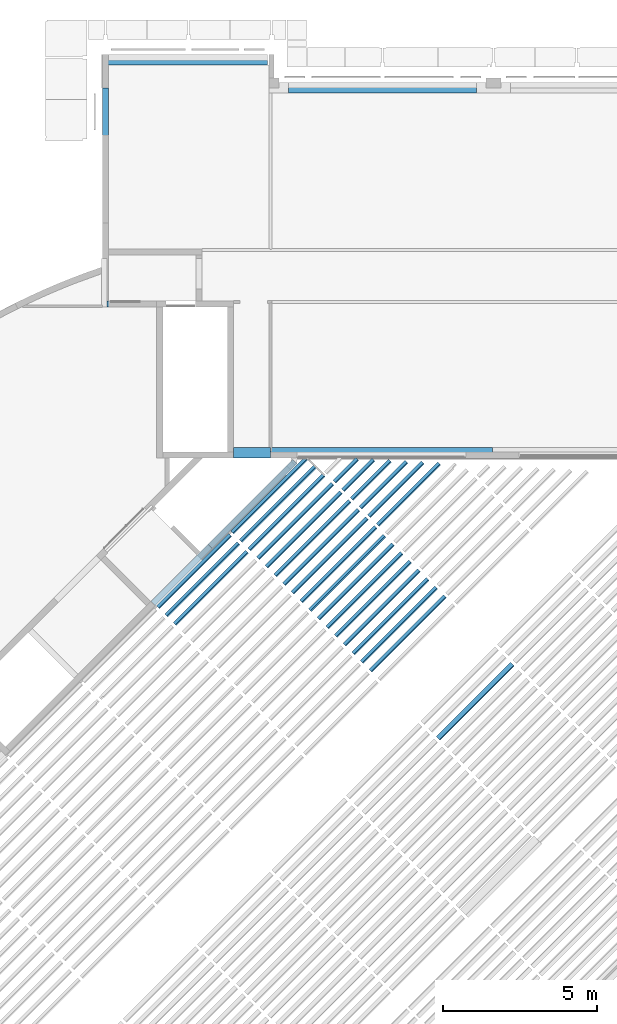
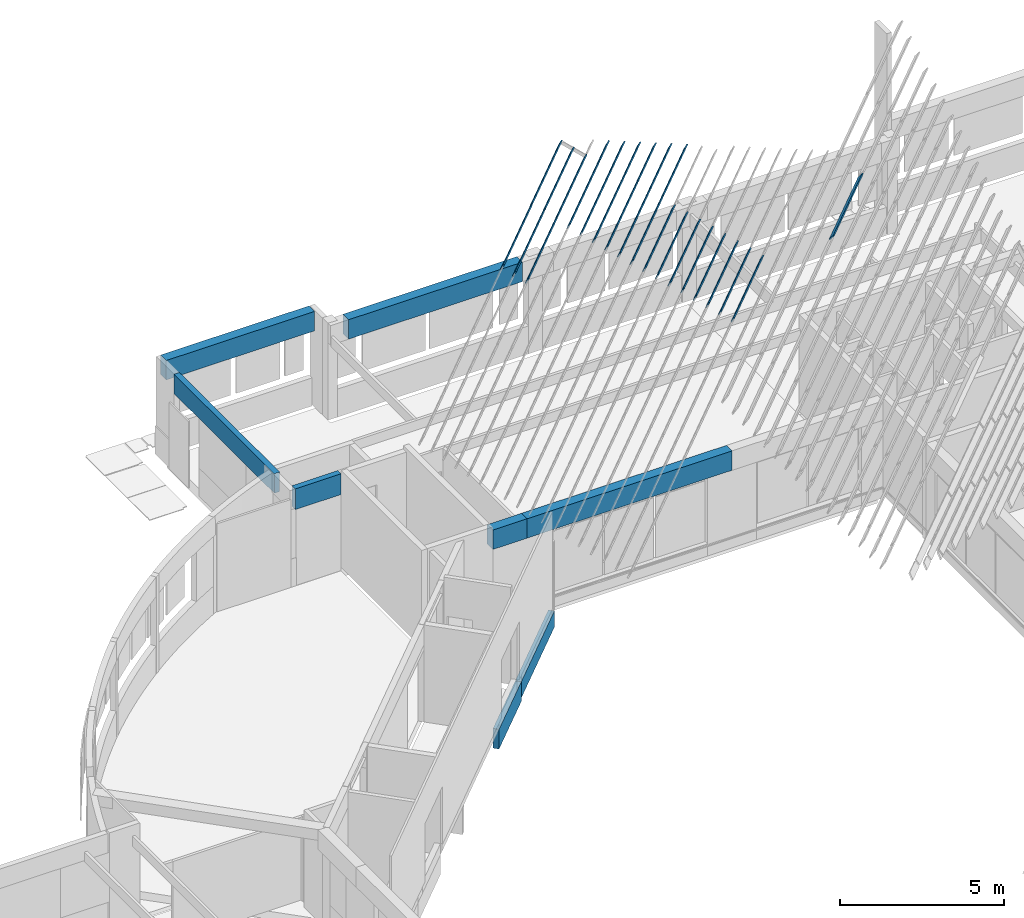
# One storey, part 12 of 37: 35 beams.
"""IFC4X3_ADD2 building model written with IfcOpenShell, lengths in millimetres."""

from ifc_helpers import new_model, si_unit, direction, frame, frame_2d, origin_with_axes, origin_2d_with_axis, place, context, subcontext, project, spatial, rectangle, extrude, source, transform, mapped, material, type_object, type_shapes, element, save


model = new_model("IFC4X3_ADD2")

# Units and contexts
model_context = context("Model", 3, precision=1e-05, world=origin_with_axes(), true_north=direction((0.0, 1.0)))
body_context = subcontext(model_context, "Body", "Model", "MODEL_VIEW")
ifc_project = project(units=[si_unit("LENGTHUNIT", "METRE", prefix="MILLI"), si_unit("AREAUNIT", "SQUARE_METRE"), si_unit("VOLUMEUNIT", "CUBIC_METRE"), si_unit("PLANEANGLEUNIT", "RADIAN"), si_unit("TIMEUNIT", "SECOND"), si_unit("MASSUNIT", "GRAM")], contexts=[model_context])

# Site, building, storey
site_placement = place(None, origin_with_axes())
site = spatial("IfcSite", under=ifc_project, at=site_placement, Name="Site", CompositionType="ELEMENT")
building_placement = place(site_placement, origin_with_axes())
building = spatial("IfcBuilding", under=site, at=building_placement, Name="IFC Building Story")
storey_placement = place(building_placement, frame((0.0, 0.0, 3600.0), z_axis=(0.0, 0.0, 1.0), x_axis=(1.0, 0.0, 0.0)))
storey = spatial("IfcBuildingStorey", under=building, at=storey_placement, Name="010", Elevation=3600.0)

# Beams
ifc_material_1 = material(Name="BB_Beton_Bestaand")
beam_type_1 = type_object("IfcBeamType", Name="BB_XX_Betonbalk_ rechthoekig_ center-center_SFB_340 x 720 mm1", PredefinedType="NOTDEFINED")
shared_shape_1 = source(origin_with_axes(), body_context, "Body", "SweptSolid", [
    extrude(rectangle(XDim=5209.99999999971, YDim=340.0, at=origin_2d_with_axis()), frame((-1.450644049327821e-10, 0.0, -360.0), z_axis=(0.0, 0.0, 1.0), x_axis=(1.0, 0.0, 0.0)), (0.0, 0.0, 1.0), 720.0),
])
type_shapes(beam_type_1, [shared_shape_1])
beam_1_placement = place(storey_placement, frame((-27900.0, 51525.0, 3040.0), z_axis=(0.0, 0.0, 1.0), x_axis=(1.0, 0.0, 0.0)))
element("IfcBeam", 1, at=beam_1_placement, inside=storey, type_object=beam_type_1, material=ifc_material_1, Name="BB_XX_Betonbalk, rechthoekig, center-center_SFB:340 x 720 mm", ObjectType="340 x 720 mm", PredefinedType="BEAM", context=body_context, shape_type="MappedRepresentation", body=[
    mapped(shared_shape_1, transform((0.0, 0.0, 0.0))),
])
beam_type_2 = type_object("IfcBeamType", Name="BB_XX_Betonbalk_ rechthoekig_ center-center_SFB_340 x 720 mm35", PredefinedType="NOTDEFINED")
shared_shape_2 = source(origin_with_axes(), body_context, "Body", "SweptSolid", [
    extrude(rectangle(XDim=7200.0, YDim=340.0, at=origin_2d_with_axis()), frame((-5.002220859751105e-12, 0.0, -360.0), z_axis=(0.0, 0.0, 1.0), x_axis=(1.0, 0.0, 0.0)), (0.0, 0.0, 1.0), 720.0),
])
type_shapes(beam_type_2, [shared_shape_2])
beam_2_placement = place(storey_placement, frame((-21600.0, 38774.9959341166, 3040.0), z_axis=(0.0, 0.0, 1.0), x_axis=(-1.0, 0.0, 0.0)))
element("IfcBeam", 2, at=beam_2_placement, inside=storey, type_object=beam_type_2, material=ifc_material_1, Name="BB_XX_Betonbalk, rechthoekig, center-center_SFB:340 x 720 mm", ObjectType="340 x 720 mm", PredefinedType="BEAM", context=body_context, shape_type="MappedRepresentation", body=[
    mapped(shared_shape_2, transform((0.0, 0.0, 0.0))),
])
beam_type_3 = type_object("IfcBeamType", Name="BB_XX_Betonbalk_ rechthoekig_ center-center_SFB_340 x 720 mm127", PredefinedType="NOTDEFINED")
shared_shape_3 = source(origin_with_axes(), body_context, "Body", "SweptSolid", [
    extrude(rectangle(XDim=6109.99999999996, YDim=339.9999999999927, at=origin_2d_with_axis()), frame((-21565.00000000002, 50624.99999999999, 6280.0), z_axis=(0.0, 0.0, 1.0), x_axis=(1.0, 0.0, 0.0)), (0.0, 0.0, 1.0), 719.9999999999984),
])
type_shapes(beam_type_3, [shared_shape_3])
beam_3_placement = place(storey_placement, frame((0.0, 0.0, -3600.0), z_axis=(0.0, 0.0, 1.0), x_axis=(1.0, 0.0, 0.0)))
element("IfcBeam", 3, at=beam_3_placement, inside=storey, type_object=beam_type_3, material=ifc_material_1, Name="BB_XX_Betonbalk, rechthoekig, center-center_SFB:340 x 720 mm", ObjectType="340 x 720 mm", PredefinedType="BEAM", context=body_context, shape_type="MappedRepresentation", body=[
    mapped(shared_shape_3, transform((0.0, 0.0, 0.0))),
])
beam_type_4 = type_object("IfcBeamType", Name="BB_XX_Betonbalk_ rechthoekig_ center-center_SFB_190 x 720 mm17", PredefinedType="NOTDEFINED")
shared_shape_4 = source(origin_with_axes(), body_context, "Body", "SweptSolid", [
    extrude(rectangle(XDim=6094.55608940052, YDim=190.0, at=origin_2d_with_axis()), frame((-5.002220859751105e-12, 0.0, -360.0), z_axis=(0.0, 0.0, 1.0), x_axis=(1.0, 0.0, 0.0)), (0.0, 0.0, 1.0), 720.0),
])
type_shapes(beam_type_4, [shared_shape_4])
beam_4_placement = place(storey_placement, frame((-30565.0, 47557.7219552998, 3040.0), z_axis=(0.0, 0.0, 1.0), x_axis=(0.0, 1.0, 0.0)))
element("IfcBeam", 4, at=beam_4_placement, inside=storey, type_object=beam_type_4, material=ifc_material_1, Name="BB_XX_Betonbalk, rechthoekig, center-center_SFB:190 x 720 mm", ObjectType="190 x 720 mm", PredefinedType="BEAM", context=body_context, shape_type="MappedRepresentation", body=[
    mapped(shared_shape_4, transform((0.0, 0.0, 0.0))),
])
beam_type_5 = type_object("IfcBeamType", Name="BB_XX_Betonbalk_ rechthoekig_ center-center_SFB_340 x 720 mm147", PredefinedType="NOTDEFINED")
shared_shape_5 = source(origin_with_axes(), body_context, "Body", "SweptSolid", [
    extrude(rectangle(XDim=1200.00000000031, YDim=340.0, at=origin_2d_with_axis()), frame((1.450644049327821e-10, 0.0, -360.0), z_axis=(0.0, 0.0, 1.0), x_axis=(1.0, 0.0, 0.0)), (0.0, 0.0, 1.0), 720.0),
])
type_shapes(beam_type_5, [shared_shape_5])
beam_5_placement = place(storey_placement, frame((-25800.0, 38775.0, 3040.0), z_axis=(0.0, 0.0, 1.0), x_axis=(-1.0, 0.0, 0.0)))
element("IfcBeam", 5, at=beam_5_placement, inside=storey, type_object=beam_type_5, material=ifc_material_1, Name="BB_XX_Betonbalk, rechthoekig, center-center_SFB:340 x 720 mm", ObjectType="340 x 720 mm", PredefinedType="BEAM", context=body_context, shape_type="MappedRepresentation", body=[
    mapped(shared_shape_5, transform((0.0, 0.0, 0.0))),
])
beam_type_6 = type_object("IfcBeamType", Name="BB_XX_Betonbalk_ rechthoekig_ center-center_SFB_200 x 770 mm3", PredefinedType="NOTDEFINED")
shared_shape_6 = source(origin_with_axes(), body_context, "Body", "SweptSolid", [
    extrude(rectangle(XDim=1604.999999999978, YDim=200.0, at=origin_2d_with_axis()), frame((-29702.50000000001, 43599.99999999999, 6230.0), z_axis=(0.0, 0.0, 1.0), x_axis=(1.0, 0.0, 0.0)), (0.0, 0.0, 1.0), 770.0),
])
type_shapes(beam_type_6, [shared_shape_6])
beam_6_placement = place(storey_placement, frame((0.0, 0.0, -3600.0), z_axis=(0.0, 0.0, 1.0), x_axis=(1.0, 0.0, 0.0)))
element("IfcBeam", 6, at=beam_6_placement, inside=storey, type_object=beam_type_6, material=ifc_material_1, Name="BB_XX_Betonbalk, rechthoekig, center-center_SFB:200 x 770 mm", ObjectType="200 x 770 mm", PredefinedType="BEAM", context=body_context, shape_type="MappedRepresentation", body=[
    mapped(shared_shape_6, transform((0.0, 0.0, 0.0))),
])
ifc_material_2 = material(Name="GVH_i2_naaldhout_generiek")
beam_type_7 = type_object("IfcBeamType", Name="28_SF_hout_rechthoekig_40 x 230_17", PredefinedType="NOTDEFINED")
shared_shape_7 = source(origin_with_axes(), body_context, "Body", "SweptSolid", [
    extrude(rectangle(XDim=2824.8907183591, YDim=40.0000000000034, at=origin_2d_with_axis()), frame((-45.38781224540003, 0.0, -115.0), z_axis=(0.0, 0.0, 1.0), x_axis=(1.0, 0.0, 0.0)), (0.0, 0.0, 1.0), 230.0),
])
type_shapes(beam_type_7, [shared_shape_7])
beam_7_placement = place(storey_placement, frame((-20754.1131495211, 37397.8157494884, 15408.1783867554), z_axis=(0.311937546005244, -0.311937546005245, 0.8974351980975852), x_axis=(-0.7071067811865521, -0.707106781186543, 0.0)))
element("IfcBeam", 7, at=beam_7_placement, inside=storey, type_object=beam_type_7, material=ifc_material_2, Name="28_SF_hout_rechthoekig:40 x 230", ObjectType="40 x 230", PredefinedType="BEAM", context=body_context, shape_type="MappedRepresentation", body=[
    mapped(shared_shape_7, transform((0.0, 0.0, 0.0))),
])
beam_type_8 = type_object("IfcBeamType", Name="28_SF_hout_rechthoekig_40 x 230_19", PredefinedType="NOTDEFINED")
shared_shape_8 = source(origin_with_axes(), body_context, "Body", "SweptSolid", [
    extrude(rectangle(XDim=2468.46777033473, YDim=40.0000000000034, at=origin_2d_with_axis()), frame((-54.67683321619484, 0.0, -115.0), z_axis=(0.0, 0.0, 1.0), x_axis=(1.0, 0.0, 0.0)), (0.0, 0.0, 1.0), 229.9999999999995),
])
type_shapes(beam_type_8, [shared_shape_8])
beam_8_placement = place(storey_placement, frame((-21167.6888083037, 37546.2263653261, 15603.5179720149), z_axis=(0.311937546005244, -0.311937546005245, 0.8974351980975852), x_axis=(-0.7071067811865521, -0.707106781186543, 0.0)))
element("IfcBeam", 8, at=beam_8_placement, inside=storey, type_object=beam_type_8, material=ifc_material_2, Name="28_SF_hout_rechthoekig:40 x 230", ObjectType="40 x 230", PredefinedType="BEAM", context=body_context, shape_type="MappedRepresentation", body=[
    mapped(shared_shape_8, transform((0.0, 0.0, 0.0))),
])
beam_type_9 = type_object("IfcBeamType", Name="28_SF_hout_rechthoekig_40 x 230_21", PredefinedType="NOTDEFINED")
shared_shape_9 = source(origin_with_axes(), body_context, "Body", "SweptSolid", [
    extrude(rectangle(XDim=2112.04563945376, YDim=40.0000000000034, at=origin_2d_with_axis()), frame((-46.46544561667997, 0.0, -115.0), z_axis=(0.0, 0.0, 1.0), x_axis=(1.0, 0.0, 0.0)), (0.0, 0.0, 1.0), 230.0),
])
type_shapes(beam_type_9, [shared_shape_9])
beam_9_placement = place(storey_placement, frame((-21568.8900984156, 37707.0113498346, 15798.8575572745), z_axis=(0.311937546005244, -0.311937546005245, 0.8974351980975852), x_axis=(-0.7071067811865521, -0.707106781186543, 0.0)))
element("IfcBeam", 9, at=beam_9_placement, inside=storey, type_object=beam_type_9, material=ifc_material_2, Name="28_SF_hout_rechthoekig:40 x 230", ObjectType="40 x 230", PredefinedType="BEAM", context=body_context, shape_type="MappedRepresentation", body=[
    mapped(shared_shape_9, transform((0.0, 0.0, 0.0))),
])
beam_type_10 = type_object("IfcBeamType", Name="28_SF_hout_rechthoekig_40 x 230_23", PredefinedType="NOTDEFINED")
shared_shape_10 = source(origin_with_axes(), body_context, "Body", "SweptSolid", [
    extrude(rectangle(XDim=1755.62310000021, YDim=40.0000000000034, at=origin_2d_with_axis()), frame((-58.2542623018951, 0.0, -115.0), z_axis=(0.0, 0.0, 1.0), x_axis=(1.0, 0.0, 0.0)), (0.0, 0.0, 1.0), 230.0),
])
type_shapes(beam_type_10, [shared_shape_10])
beam_10_placement = place(storey_placement, frame((-21984.2335241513, 37853.6541987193, 15994.197142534), z_axis=(0.311937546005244, -0.311937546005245, 0.8974351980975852), x_axis=(-0.7071067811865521, -0.707106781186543, 0.0)))
element("IfcBeam", 10, at=beam_10_placement, inside=storey, type_object=beam_type_10, material=ifc_material_2, Name="28_SF_hout_rechthoekig:40 x 230", ObjectType="40 x 230", PredefinedType="BEAM", context=body_context, shape_type="MappedRepresentation", body=[
    mapped(shared_shape_10, transform((0.0, 0.0, 0.0))),
])
beam_type_11 = type_object("IfcBeamType", Name="28_SF_hout_rechthoekig_40 x 230_25", PredefinedType="NOTDEFINED")
shared_shape_11 = source(origin_with_axes(), body_context, "Body", "SweptSolid", [
    extrude(rectangle(XDim=1399.20056054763, YDim=40.0000000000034, at=origin_2d_with_axis()), frame((-40.04307898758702, 0.0, -115.0), z_axis=(0.0, 0.0, 1.0), x_axis=(1.0, 0.0, 0.0)), (0.0, 0.0, 1.0), 229.999999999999),
])
type_shapes(beam_type_11, [shared_shape_11])
beam_11_placement = place(storey_placement, frame((-22378.3637464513, 38021.5102510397, 16189.5367277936), z_axis=(0.311937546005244, -0.311937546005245, 0.8974351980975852), x_axis=(-0.7071067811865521, -0.707106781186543, 0.0)))
element("IfcBeam", 11, at=beam_11_placement, inside=storey, type_object=beam_type_11, material=ifc_material_2, Name="28_SF_hout_rechthoekig:40 x 230", ObjectType="40 x 230", PredefinedType="BEAM", context=body_context, shape_type="MappedRepresentation", body=[
    mapped(shared_shape_11, transform((0.0, 0.0, 0.0))),
])
beam_type_12 = type_object("IfcBeamType", Name="28_SF_hout_rechthoekig_40 x 230_27", PredefinedType="NOTDEFINED")
shared_shape_12 = source(origin_with_axes(), body_context, "Body", "SweptSolid", [
    extrude(rectangle(XDim=1042.77802109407, YDim=40.0000000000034, at=origin_2d_with_axis()), frame((-41.83189567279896, 0.0, -115.0), z_axis=(0.0, 0.0, 1.0), x_axis=(1.0, 0.0, 0.0)), (0.0, 0.0, 1.0), 229.999999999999),
])
type_shapes(beam_type_12, [shared_shape_12])
beam_12_placement = place(storey_placement, frame((-22786.6361043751, 38175.2241677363, 16384.8763130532), z_axis=(0.311937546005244, -0.311937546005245, 0.8974351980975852), x_axis=(-0.7071067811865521, -0.707106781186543, 0.0)))
element("IfcBeam", 12, at=beam_12_placement, inside=storey, type_object=beam_type_12, material=ifc_material_2, Name="28_SF_hout_rechthoekig:40 x 230", ObjectType="40 x 230", PredefinedType="BEAM", context=body_context, shape_type="MappedRepresentation", body=[
    mapped(shared_shape_12, transform((0.0, 0.0, 0.0))),
])
beam_type_13 = type_object("IfcBeamType", Name="28_SF_hout_rechthoekig_40 x 230_97", PredefinedType="NOTDEFINED")
shared_shape_13 = source(origin_with_axes(), body_context, "Body", "SweptSolid", [
    extrude(rectangle(XDim=3317.77038686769, YDim=40.0000000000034, at=origin_2d_with_axis()), frame((0.892411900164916, 0.0, -115.0), z_axis=(0.0, 0.0, 1.0), x_axis=(1.0, 0.0, 0.0)), (0.0, 0.0, 1.0), 230.0),
])
type_shapes(beam_type_13, [shared_shape_13])
beam_13_placement = place(storey_placement, frame((-27417.7107777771, 34668.1220435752, 16775.5554835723), z_axis=(0.311937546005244, -0.311937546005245, 0.8974351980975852), x_axis=(-0.7071067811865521, -0.707106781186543, 0.0)))
element("IfcBeam", 13, at=beam_13_placement, inside=storey, type_object=beam_type_13, material=ifc_material_2, Name="28_SF_hout_rechthoekig:40 x 230", ObjectType="40 x 230", PredefinedType="BEAM", context=body_context, shape_type="MappedRepresentation", body=[
    mapped(shared_shape_13, transform((0.0, 0.0, 0.0))),
])
beam_type_14 = type_object("IfcBeamType", Name="28_SF_hout_rechthoekig_40 x 230_197", PredefinedType="NOTDEFINED")
shared_shape_14 = source(origin_with_axes(), body_context, "Body", "SweptSolid", [
    extrude(rectangle(XDim=3317.27999999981, YDim=40.0000000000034, at=origin_2d_with_axis()), frame((0.9070284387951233, 0.0, -115.0), z_axis=(0.0, 0.0, 1.0), x_axis=(1.0, 0.0, 0.0)), (0.0, 0.0, 1.0), 230.0000000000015),
])
type_shapes(beam_type_14, [shared_shape_14])
beam_14_placement = place(storey_placement, frame((-27136.7176404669, 34387.128906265, 16580.2158983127), z_axis=(0.311937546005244, -0.311937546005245, 0.8974351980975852), x_axis=(-0.7071067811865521, -0.707106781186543, 0.0)))
element("IfcBeam", 14, at=beam_14_placement, inside=storey, type_object=beam_type_14, material=ifc_material_2, Name="28_SF_hout_rechthoekig:40 x 230", ObjectType="40 x 230", PredefinedType="BEAM", context=body_context, shape_type="MappedRepresentation", body=[
    mapped(shared_shape_14, transform((0.0, 0.0, 0.0))),
])
beam_type_15 = type_object("IfcBeamType", Name="28_SF_hout_rechthoekig_40 x 230_201", PredefinedType="NOTDEFINED")
shared_shape_15 = source(origin_with_axes(), body_context, "Body", "SweptSolid", [
    extrude(rectangle(XDim=3417.27000002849, YDim=40.0000000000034, at=origin_2d_with_axis()), frame((-49.08676178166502, 0.0, -115.0), z_axis=(0.0, 0.0, 1.0), x_axis=(1.0, 0.0, 0.0)), (0.0, 0.0, 1.0), 230.0),
])
type_shapes(beam_type_15, [shared_shape_15])
beam_15_placement = place(storey_placement, frame((-20786.4318568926, 32869.6068451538, 13845.4617046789), z_axis=(0.311937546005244, -0.311937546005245, 0.8974351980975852), x_axis=(-0.7071067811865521, -0.707106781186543, 0.0)))
element("IfcBeam", 15, at=beam_15_placement, inside=storey, type_object=beam_type_15, material=ifc_material_2, Name="28_SF_hout_rechthoekig:40 x 230", ObjectType="40 x 230", PredefinedType="BEAM", context=body_context, shape_type="MappedRepresentation", body=[
    mapped(shared_shape_15, transform((0.0, 0.0, 0.0))),
])
beam_type_16 = type_object("IfcBeamType", Name="28_SF_hout_rechthoekig_40 x 230_203", PredefinedType="NOTDEFINED")
shared_shape_16 = source(origin_with_axes(), body_context, "Body", "SweptSolid", [
    extrude(rectangle(XDim=3417.27000002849, YDim=40.0000000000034, at=origin_2d_with_axis()), frame((0.9131518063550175, 0.0, -115.0), z_axis=(0.0, 0.0, 1.0), x_axis=(1.0, 0.0, 0.0)), (0.0, 0.0, 1.0), 229.999999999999),
])
type_shapes(beam_type_16, [shared_shape_16])
beam_16_placement = place(storey_placement, frame((-21032.0696551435, 33185.9553215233, 14040.8012899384), z_axis=(0.311937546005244, -0.311937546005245, 0.8974351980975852), x_axis=(-0.7071067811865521, -0.707106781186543, 0.0)))
element("IfcBeam", 16, at=beam_16_placement, inside=storey, type_object=beam_type_16, material=ifc_material_2, Name="28_SF_hout_rechthoekig:40 x 230", ObjectType="40 x 230", PredefinedType="BEAM", context=body_context, shape_type="MappedRepresentation", body=[
    mapped(shared_shape_16, transform((0.0, 0.0, 0.0))),
])
beam_type_17 = type_object("IfcBeamType", Name="28_SF_hout_rechthoekig_40 x 230_205", PredefinedType="NOTDEFINED")
shared_shape_17 = source(origin_with_axes(), body_context, "Body", "SweptSolid", [
    extrude(rectangle(XDim=3417.27000002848, YDim=40.0000000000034, at=origin_2d_with_axis()), frame((0.9130653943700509, 0.0, -115.0), z_axis=(0.0, 0.0, 1.0), x_axis=(1.0, 0.0, 0.0)), (0.0, 0.0, 1.0), 230.0),
])
type_shapes(beam_type_17, [shared_shape_17])
beam_17_placement = place(storey_placement, frame((-21313.0627924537, 33466.9484588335, 14236.140875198), z_axis=(0.311937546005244, -0.311937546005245, 0.8974351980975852), x_axis=(-0.7071067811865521, -0.707106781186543, 0.0)))
element("IfcBeam", 17, at=beam_17_placement, inside=storey, type_object=beam_type_17, material=ifc_material_2, Name="28_SF_hout_rechthoekig:40 x 230", ObjectType="40 x 230", PredefinedType="BEAM", context=body_context, shape_type="MappedRepresentation", body=[
    mapped(shared_shape_17, transform((0.0, 0.0, 0.0))),
])
beam_type_18 = type_object("IfcBeamType", Name="28_SF_hout_rechthoekig_40 x 230_207", PredefinedType="NOTDEFINED")
shared_shape_18 = source(origin_with_axes(), body_context, "Body", "SweptSolid", [
    extrude(rectangle(XDim=3417.27000002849, YDim=40.0000000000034, at=origin_2d_with_axis()), frame((0.9129789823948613, 0.0, -115.0), z_axis=(0.0, 0.0, 1.0), x_axis=(1.0, 0.0, 0.0)), (0.0, 0.0, 1.0), 230.0),
])
type_shapes(beam_type_18, [shared_shape_18])
beam_18_placement = place(storey_placement, frame((-21594.0559297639, 33747.9415961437, 14431.4804604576), z_axis=(0.311937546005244, -0.311937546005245, 0.8974351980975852), x_axis=(-0.7071067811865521, -0.707106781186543, 0.0)))
element("IfcBeam", 18, at=beam_18_placement, inside=storey, type_object=beam_type_18, material=ifc_material_2, Name="28_SF_hout_rechthoekig:40 x 230", ObjectType="40 x 230", PredefinedType="BEAM", context=body_context, shape_type="MappedRepresentation", body=[
    mapped(shared_shape_18, transform((0.0, 0.0, 0.0))),
])
beam_type_19 = type_object("IfcBeamType", Name="28_SF_hout_rechthoekig_40 x 230_209", PredefinedType="NOTDEFINED")
shared_shape_19 = source(origin_with_axes(), body_context, "Body", "SweptSolid", [
    extrude(rectangle(XDim=3417.27000002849, YDim=40.0000000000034, at=origin_2d_with_axis()), frame((-10.44710741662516, 0.0, -115.0), z_axis=(0.0, 0.0, 1.0), x_axis=(1.0, 0.0, 0.0)), (0.0, 0.0, 1.0), 229.9999999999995),
])
type_shapes(beam_type_19, [shared_shape_19])
beam_19_placement = place(storey_placement, frame((-21883.0818000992, 34020.9020004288, 14626.8200457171), z_axis=(0.311937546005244, -0.311937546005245, 0.8974351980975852), x_axis=(-0.7071067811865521, -0.707106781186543, 0.0)))
element("IfcBeam", 19, at=beam_19_placement, inside=storey, type_object=beam_type_19, material=ifc_material_2, Name="28_SF_hout_rechthoekig:40 x 230", ObjectType="40 x 230", PredefinedType="BEAM", context=body_context, shape_type="MappedRepresentation", body=[
    mapped(shared_shape_19, transform((0.0, 0.0, 0.0))),
])
beam_type_20 = type_object("IfcBeamType", Name="28_SF_hout_rechthoekig_40 x 230_211", PredefinedType="NOTDEFINED")
shared_shape_20 = source(origin_with_axes(), body_context, "Body", "SweptSolid", [
    extrude(rectangle(XDim=3417.27000002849, YDim=40.0000000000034, at=origin_2d_with_axis()), frame((0.9128061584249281, 0.0, -115.0), z_axis=(0.0, 0.0, 1.0), x_axis=(1.0, 0.0, 0.0)), (0.0, 0.0, 1.0), 229.9999999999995),
])
type_shapes(beam_type_20, [shared_shape_20])
beam_20_placement = place(storey_placement, frame((-22156.0422043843, 34309.9278707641, 14822.1596309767), z_axis=(0.311937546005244, -0.311937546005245, 0.8974351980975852), x_axis=(-0.7071067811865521, -0.707106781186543, 0.0)))
element("IfcBeam", 20, at=beam_20_placement, inside=storey, type_object=beam_type_20, material=ifc_material_2, Name="28_SF_hout_rechthoekig:40 x 230", ObjectType="40 x 230", PredefinedType="BEAM", context=body_context, shape_type="MappedRepresentation", body=[
    mapped(shared_shape_20, transform((0.0, 0.0, 0.0))),
])
beam_type_21 = type_object("IfcBeamType", Name="28_SF_hout_rechthoekig_40 x 230_213", PredefinedType="NOTDEFINED")
shared_shape_21 = source(origin_with_axes(), body_context, "Body", "SweptSolid", [
    extrude(rectangle(XDim=3417.27000002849, YDim=40.0000000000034, at=origin_2d_with_axis()), frame((0.9127197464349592, 0.0, -115.0), z_axis=(0.0, 0.0, 1.0), x_axis=(1.0, 0.0, 0.0)), (0.0, 0.0, 1.0), 229.9999999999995),
])
type_shapes(beam_type_21, [shared_shape_21])
beam_21_placement = place(storey_placement, frame((-22437.0353416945, 34590.9210080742, 15017.4992162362), z_axis=(0.311937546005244, -0.311937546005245, 0.8974351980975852), x_axis=(-0.7071067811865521, -0.707106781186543, 0.0)))
element("IfcBeam", 21, at=beam_21_placement, inside=storey, type_object=beam_type_21, material=ifc_material_2, Name="28_SF_hout_rechthoekig:40 x 230", ObjectType="40 x 230", PredefinedType="BEAM", context=body_context, shape_type="MappedRepresentation", body=[
    mapped(shared_shape_21, transform((0.0, 0.0, 0.0))),
])
beam_type_22 = type_object("IfcBeamType", Name="28_SF_hout_rechthoekig_40 x 230_215", PredefinedType="NOTDEFINED")
shared_shape_22 = source(origin_with_axes(), body_context, "Body", "SweptSolid", [
    extrude(rectangle(XDim=3417.270495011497, YDim=40.00000000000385, at=frame_2d((0.0, 0.0), x_axis=(0.7442425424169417, 0.6679094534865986))), frame((-22754.54673679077, 34907.14151693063, 18709.63375154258), z_axis=(0.311937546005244, -0.311937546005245, 0.8974351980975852), x_axis=(0.9501026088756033, 0.1024152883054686, -0.2946457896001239)), (0.0, 0.0, 1.0), 230.0),
])
type_shapes(beam_type_22, [shared_shape_22])
beam_22_placement = place(storey_placement, frame((0.0, 0.0, -3600.0), z_axis=(0.0, 0.0, 1.0), x_axis=(1.0, 0.0, 0.0)))
element("IfcBeam", 22, at=beam_22_placement, inside=storey, type_object=beam_type_22, material=ifc_material_2, Name="28_SF_hout_rechthoekig:40 x 230", ObjectType="40 x 230", PredefinedType="BEAM", context=body_context, shape_type="MappedRepresentation", body=[
    mapped(shared_shape_22, transform((0.0, 0.0, 0.0))),
])
beam_type_23 = type_object("IfcBeamType", Name="28_SF_hout_rechthoekig_40 x 230_217", PredefinedType="NOTDEFINED")
shared_shape_23 = source(origin_with_axes(), body_context, "Body", "SweptSolid", [
    extrude(rectangle(XDim=3417.27000002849, YDim=40.0000000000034, at=origin_2d_with_axis()), frame((-10.44745306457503, 0.0, -115.0), z_axis=(0.0, 0.0, 1.0), x_axis=(1.0, 0.0, 0.0)), (0.0, 0.0, 1.0), 229.9999999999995),
])
type_shapes(beam_type_23, [shared_shape_23])
beam_23_placement = place(storey_placement, frame((-23007.05434934, 35144.8745496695, 15408.1783867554), z_axis=(0.311937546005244, -0.311937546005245, 0.8974351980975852), x_axis=(-0.7071067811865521, -0.707106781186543, 0.0)))
element("IfcBeam", 23, at=beam_23_placement, inside=storey, type_object=beam_type_23, material=ifc_material_2, Name="28_SF_hout_rechthoekig:40 x 230", ObjectType="40 x 230", PredefinedType="BEAM", context=body_context, shape_type="MappedRepresentation", body=[
    mapped(shared_shape_23, transform((0.0, 0.0, 0.0))),
])
beam_type_24 = type_object("IfcBeamType", Name="28_SF_hout_rechthoekig_40 x 230_219", PredefinedType="NOTDEFINED")
shared_shape_24 = source(origin_with_axes(), body_context, "Body", "SweptSolid", [
    extrude(rectangle(XDim=3417.27000002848, YDim=40.0000000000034, at=origin_2d_with_axis()), frame((0.9124605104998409, 0.0, -115.0), z_axis=(0.0, 0.0, 1.0), x_axis=(1.0, 0.0, 0.0)), (0.0, 0.0, 1.0), 229.9999999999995),
])
type_shapes(beam_type_24, [shared_shape_24])
beam_24_placement = place(storey_placement, frame((-23280.014753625, 35433.9004200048, 15603.5179720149), z_axis=(0.311937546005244, -0.311937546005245, 0.8974351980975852), x_axis=(-0.7071067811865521, -0.707106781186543, 0.0)))
element("IfcBeam", 24, at=beam_24_placement, inside=storey, type_object=beam_type_24, material=ifc_material_2, Name="28_SF_hout_rechthoekig:40 x 230", ObjectType="40 x 230", PredefinedType="BEAM", context=body_context, shape_type="MappedRepresentation", body=[
    mapped(shared_shape_24, transform((0.0, 0.0, 0.0))),
])
beam_type_25 = type_object("IfcBeamType", Name="28_SF_hout_rechthoekig_40 x 230_221", PredefinedType="NOTDEFINED")
shared_shape_25 = source(origin_with_axes(), body_context, "Body", "SweptSolid", [
    extrude(rectangle(XDim=3417.27000002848, YDim=40.0000000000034, at=origin_2d_with_axis()), frame((0.9123740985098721, 0.0, -115.0), z_axis=(0.0, 0.0, 1.0), x_axis=(1.0, 0.0, 0.0)), (0.0, 0.0, 1.0), 229.9999999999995),
])
type_shapes(beam_type_25, [shared_shape_25])
beam_25_placement = place(storey_placement, frame((-23561.0078909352, 35714.893557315, 15798.8575572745), z_axis=(0.311937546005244, -0.311937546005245, 0.8974351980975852), x_axis=(-0.7071067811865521, -0.707106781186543, 0.0)))
element("IfcBeam", 25, at=beam_25_placement, inside=storey, type_object=beam_type_25, material=ifc_material_2, Name="28_SF_hout_rechthoekig:40 x 230", ObjectType="40 x 230", PredefinedType="BEAM", context=body_context, shape_type="MappedRepresentation", body=[
    mapped(shared_shape_25, transform((0.0, 0.0, 0.0))),
])
beam_type_26 = type_object("IfcBeamType", Name="28_SF_hout_rechthoekig_40 x 230_223", PredefinedType="NOTDEFINED")
shared_shape_26 = source(origin_with_axes(), body_context, "Body", "SweptSolid", [
    extrude(rectangle(XDim=3417.27000002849, YDim=40.0000000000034, at=origin_2d_with_axis()), frame((-10.44771230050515, 0.0, -115.0), z_axis=(0.0, 0.0, 1.0), x_axis=(1.0, 0.0, 0.0)), (0.0, 0.0, 1.0), 230.0),
])
type_shapes(beam_type_26, [shared_shape_26])
beam_26_placement = place(storey_placement, frame((-23850.0337612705, 35987.8539616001, 15994.197142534), z_axis=(0.311937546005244, -0.311937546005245, 0.8974351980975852), x_axis=(-0.7071067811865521, -0.707106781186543, 0.0)))
element("IfcBeam", 26, at=beam_26_placement, inside=storey, type_object=beam_type_26, material=ifc_material_2, Name="28_SF_hout_rechthoekig:40 x 230", ObjectType="40 x 230", PredefinedType="BEAM", context=body_context, shape_type="MappedRepresentation", body=[
    mapped(shared_shape_26, transform((0.0, 0.0, 0.0))),
])
beam_type_27 = type_object("IfcBeamType", Name="28_SF_hout_rechthoekig_40 x 230_225", PredefinedType="NOTDEFINED")
shared_shape_27 = source(origin_with_axes(), body_context, "Body", "SweptSolid", [
    extrude(rectangle(XDim=3417.27000002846, YDim=40.0000000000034, at=origin_2d_with_axis()), frame((-10.44779871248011, 0.0, -115.0), z_axis=(0.0, 0.0, 1.0), x_axis=(1.0, 0.0, 0.0)), (0.0, 0.0, 1.0), 230.0),
])
type_shapes(beam_type_27, [shared_shape_27])
beam_27_placement = place(storey_placement, frame((-24131.0268985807, 36268.8470989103, 16189.5367277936), z_axis=(0.311937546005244, -0.311937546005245, 0.8974351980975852), x_axis=(-0.7071067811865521, -0.707106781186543, 0.0)))
element("IfcBeam", 27, at=beam_27_placement, inside=storey, type_object=beam_type_27, material=ifc_material_2, Name="28_SF_hout_rechthoekig:40 x 230", ObjectType="40 x 230", PredefinedType="BEAM", context=body_context, shape_type="MappedRepresentation", body=[
    mapped(shared_shape_27, transform((0.0, 0.0, 0.0))),
])
beam_type_28 = type_object("IfcBeamType", Name="28_SF_hout_rechthoekig_40 x 230_227", PredefinedType="NOTDEFINED")
shared_shape_28 = source(origin_with_axes(), body_context, "Body", "SweptSolid", [
    extrude(rectangle(XDim=3417.27000002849, YDim=40.0000000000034, at=origin_2d_with_axis()), frame((0.9121148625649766, 0.0, -115.0), z_axis=(0.0, 0.0, 1.0), x_axis=(1.0, 0.0, 0.0)), (0.0, 0.0, 1.0), 230.0),
])
type_shapes(beam_type_28, [shared_shape_28])
beam_28_placement = place(storey_placement, frame((-24403.9873028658, 36557.8729692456, 16384.8763130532), z_axis=(0.311937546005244, -0.311937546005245, 0.8974351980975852), x_axis=(-0.7071067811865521, -0.707106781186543, 0.0)))
element("IfcBeam", 28, at=beam_28_placement, inside=storey, type_object=beam_type_28, material=ifc_material_2, Name="28_SF_hout_rechthoekig:40 x 230", ObjectType="40 x 230", PredefinedType="BEAM", context=body_context, shape_type="MappedRepresentation", body=[
    mapped(shared_shape_28, transform((0.0, 0.0, 0.0))),
])
beam_type_29 = type_object("IfcBeamType", Name="28_SF_hout_rechthoekig_40 x 230_229", PredefinedType="NOTDEFINED")
shared_shape_29 = source(origin_with_axes(), body_context, "Body", "SweptSolid", [
    extrude(rectangle(XDim=3417.26991361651, YDim=40.0000000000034, at=origin_2d_with_axis()), frame((0.807090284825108, 0.0, -115.0), z_axis=(0.0, 0.0, 1.0), x_axis=(1.0, 0.0, 0.0)), (0.0, 0.0, 1.0), 230.0),
])
type_shapes(beam_type_29, [shared_shape_29])
beam_29_placement = place(storey_placement, frame((-24685.0546732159, 36838.7918735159, 16580.2158983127), z_axis=(0.311937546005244, -0.311937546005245, 0.8974351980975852), x_axis=(-0.7071067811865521, -0.707106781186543, 0.0)))
element("IfcBeam", 29, at=beam_29_placement, inside=storey, type_object=beam_type_29, material=ifc_material_2, Name="28_SF_hout_rechthoekig:40 x 230", ObjectType="40 x 230", PredefinedType="BEAM", context=body_context, shape_type="MappedRepresentation", body=[
    mapped(shared_shape_29, transform((0.0, 0.0, 0.0))),
])
beam_type_30 = type_object("IfcBeamType", Name="28_SF_hout_rechthoekig_40 x 230_231", PredefinedType="NOTDEFINED")
shared_shape_30 = source(origin_with_axes(), body_context, "Body", "SweptSolid", [
    extrude(rectangle(XDim=3417.26982720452, YDim=40.0000000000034, at=origin_2d_with_axis()), frame((-49.08797154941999, 0.0, -115.0), z_axis=(0.0, 0.0, 1.0), x_axis=(1.0, 0.0, 0.0)), (0.0, 0.0, 1.0), 230.0),
])
type_shapes(beam_type_30, [shared_shape_30])
beam_30_placement = place(storey_placement, frame((-25001.3289165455, 37084.5039048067, 16775.5554835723), z_axis=(0.311937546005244, -0.311937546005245, 0.8974351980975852), x_axis=(-0.7071067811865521, -0.707106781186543, 0.0)))
element("IfcBeam", 30, at=beam_30_placement, inside=storey, type_object=beam_type_30, material=ifc_material_2, Name="28_SF_hout_rechthoekig:40 x 230", ObjectType="40 x 230", PredefinedType="BEAM", context=body_context, shape_type="MappedRepresentation", body=[
    mapped(shared_shape_30, transform((0.0, 0.0, 0.0))),
])
beam_type_31 = type_object("IfcBeamType", Name="28_SF_hout_rechthoekig_40 x 230_241", PredefinedType="NOTDEFINED")
shared_shape_31 = source(origin_with_axes(), body_context, "Body", "SweptSolid", [
    extrude(rectangle(XDim=3317.27999999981, YDim=40.0000000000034, at=origin_2d_with_axis()), frame((0.9068600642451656, 0.0, -115.0), z_axis=(0.0, 0.0, 1.0), x_axis=(1.0, 0.0, 0.0)), (0.0, 0.0, 1.0), 229.9999999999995),
])
type_shapes(beam_type_31, [shared_shape_31])
beam_31_placement = place(storey_placement, frame((-27684.2354337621, 34934.6466995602, 16960.8369330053), z_axis=(0.311937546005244, -0.311937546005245, 0.8974351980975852), x_axis=(-0.7071067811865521, -0.707106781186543, 0.0)))
element("IfcBeam", 31, at=beam_31_placement, inside=storey, type_object=beam_type_31, material=ifc_material_2, Name="28_SF_hout_rechthoekig:40 x 230", ObjectType="40 x 230", PredefinedType="BEAM", context=body_context, shape_type="MappedRepresentation", body=[
    mapped(shared_shape_31, transform((0.0, 0.0, 0.0))),
])
beam_type_32 = type_object("IfcBeamType", Name="28_SF_hout_rechthoekig_40 x 230_243", PredefinedType="NOTDEFINED")
shared_shape_32 = source(origin_with_axes(), body_context, "Body", "SweptSolid", [
    extrude(rectangle(XDim=3417.26974437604, YDim=40.0000000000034, at=origin_2d_with_axis()), frame((-21.70370724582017, 0.0, -115.0), z_axis=(0.0, 0.0, 1.0), x_axis=(1.0, 0.0, 0.0)), (0.0, 0.0, 1.0), 230.0),
])
type_shapes(beam_type_32, [shared_shape_32])
beam_32_placement = place(storey_placement, frame((-25251.3056563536, 37373.2079011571, 16962.7943474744), z_axis=(0.311937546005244, -0.311937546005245, 0.8974351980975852), x_axis=(-0.7071067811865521, -0.707106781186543, 0.0)))
element("IfcBeam", 32, at=beam_32_placement, inside=storey, type_object=beam_type_32, material=ifc_material_2, Name="28_SF_hout_rechthoekig:40 x 230", ObjectType="40 x 230", PredefinedType="BEAM", context=body_context, shape_type="MappedRepresentation", body=[
    mapped(shared_shape_32, transform((0.0, 0.0, 0.0))),
])
beam_type_33 = type_object("IfcBeamType", Name="28_SF_hout_rechthoekig_40 x 230_489", PredefinedType="NOTDEFINED")
shared_shape_33 = source(origin_with_axes(), body_context, "Body", "SweptSolid", [
    extrude(rectangle(XDim=3415.44987064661, YDim=40.0000000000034, at=origin_2d_with_axis()), frame((-25.07715134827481, 0.0, -115.0), z_axis=(0.0, 0.0, 1.0), x_axis=(1.0, 0.0, 0.0)), (0.0, 0.0, 1.0), 229.999999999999),
])
type_shapes(beam_type_33, [shared_shape_33])
beam_33_placement = place(storey_placement, frame((-18571.857614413, 30687.7091719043, 17452.9393455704), z_axis=(0.4307932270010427, -0.4307932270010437, 0.7929907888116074), x_axis=(-0.7071067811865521, -0.707106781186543, 0.0)))
element("IfcBeam", 33, at=beam_33_placement, inside=storey, type_object=beam_type_33, material=ifc_material_2, Name="28_SF_hout_rechthoekig:40 x 230", ObjectType="40 x 230", PredefinedType="BEAM", context=body_context, shape_type="MappedRepresentation", body=[
    mapped(shared_shape_33, transform((0.0, 0.0, 0.0))),
])
beam_type_34 = type_object("IfcBeamType", Name="BB_XX_Betonbalk_ rechthoekig_ center-center_SFB_190 x 600 mm3", PredefinedType="NOTDEFINED")
shared_shape_34 = source(origin_with_axes(), body_context, "Body", "SweptSolid", [
    extrude(rectangle(XDim=3884.303822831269, YDim=190.0000000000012, at=frame_2d((0.0, 0.0), x_axis=(0.7071067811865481, 0.7071067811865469))), frame((-25785.39642700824, 37109.21925611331, 2800.0), z_axis=(0.0, 0.0, 1.0), x_axis=(1.0, 0.0, 0.0)), (0.0, 0.0, 1.0), 600.0),
])
type_shapes(beam_type_34, [shared_shape_34])
beam_34_placement = place(storey_placement, frame((0.0, 0.0, -3600.0), z_axis=(0.0, 0.0, 1.0), x_axis=(1.0, 0.0, 0.0)))
element("IfcBeam", 34, at=beam_34_placement, inside=storey, type_object=beam_type_34, material=ifc_material_1, Name="BB_XX_Betonbalk, rechthoekig, center-center_SFB:190 x 600 mm", ObjectType="190 x 600 mm", PredefinedType="BEAM", context=body_context, shape_type="MappedRepresentation", body=[
    mapped(shared_shape_34, transform((0.0, 0.0, 0.0))),
])
beam_type_35 = type_object("IfcBeamType", Name="BB_XX_Betonbalk_ rechthoekig_ center-center_SFB_190 x 730 mm", PredefinedType="NOTDEFINED")
shared_shape_35 = source(origin_with_axes(), body_context, "Body", "SweptSolid", [
    extrude(rectangle(XDim=2619.99999999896, YDim=190.0000000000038, at=frame_2d((0.0, 0.0), x_axis=(0.7071067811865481, 0.7071067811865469))), frame((-28085.01509701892, 34809.60058610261, 2670.0), z_axis=(0.0, 0.0, 1.0), x_axis=(1.0, 0.0, 0.0)), (0.0, 0.0, 1.0), 730.0),
])
type_shapes(beam_type_35, [shared_shape_35])
beam_35_placement = place(storey_placement, frame((0.0, 0.0, -3600.0), z_axis=(0.0, 0.0, 1.0), x_axis=(1.0, 0.0, 0.0)))
element("IfcBeam", 35, at=beam_35_placement, inside=storey, type_object=beam_type_35, material=ifc_material_1, Name="BB_XX_Betonbalk, rechthoekig, center-center_SFB:190 x 730 mm", ObjectType="190 x 730 mm", PredefinedType="BEAM", context=body_context, shape_type="MappedRepresentation", body=[
    mapped(shared_shape_35, transform((0.0, 0.0, 0.0))),
])

save(model, "model.ifc")
